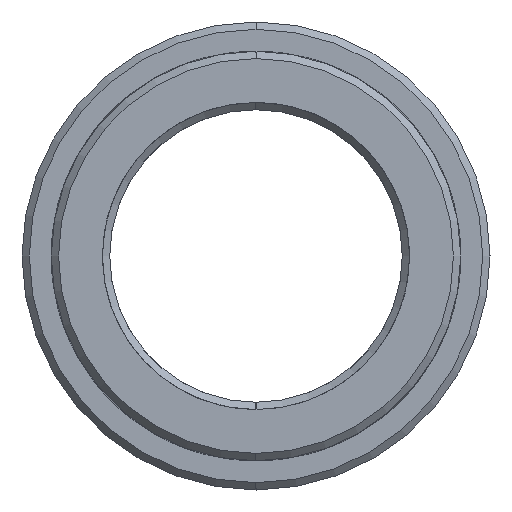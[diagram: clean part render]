
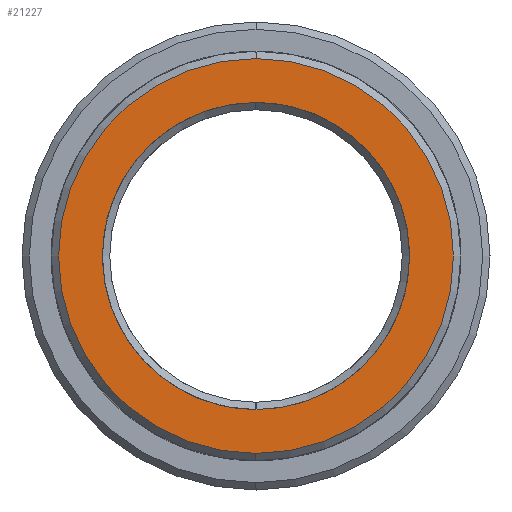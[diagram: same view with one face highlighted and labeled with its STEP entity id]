
A CAD part, left-side view. The second image highlights one B-rep face of the part: STEP entity #21227.
In plain terms, the highlighted planar face has unit normal (1, 0, 0).
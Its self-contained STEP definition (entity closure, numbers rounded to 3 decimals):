
#21144=CARTESIAN_POINT('Axis2P3D Location',(-15.,0.,0.)) ;
#21149=CARTESIAN_POINT('Axis2P3D Location',(-15.,0.,0.)) ;
#21153=CARTESIAN_POINT('Vertex',(-15.,0.,-13.5)) ;
#21155=CARTESIAN_POINT('Vertex',(-15.,0.,13.5)) ;
#21158=CARTESIAN_POINT('Axis2P3D Location',(-15.,0.,0.)) ;
#21168=CARTESIAN_POINT('Control Point',(-15.,0.,10.5)) ;
#21169=CARTESIAN_POINT('Control Point',(-15.,0.952,10.5)) ;
#21170=CARTESIAN_POINT('Control Point',(-15.,1.905,10.392)) ;
#21171=CARTESIAN_POINT('Control Point',(-15.,2.841,10.176)) ;
#21172=CARTESIAN_POINT('Control Point',(-15.,4.648,9.535)) ;
#21173=CARTESIAN_POINT('Control Point',(-15.,6.266,8.507)) ;
#21174=CARTESIAN_POINT('Control Point',(-15.,7.013,7.902)) ;
#21175=CARTESIAN_POINT('Control Point',(-15.,8.356,6.535)) ;
#21176=CARTESIAN_POINT('Control Point',(-15.,9.36,4.901)) ;
#21177=CARTESIAN_POINT('Control Point',(-15.,9.766,4.031)) ;
#21178=CARTESIAN_POINT('Control Point',(-15.,10.375,2.213)) ;
#21179=CARTESIAN_POINT('Control Point',(-15.,10.561,0.305)) ;
#21180=CARTESIAN_POINT('Control Point',(-15.,10.545,-0.656)) ;
#21181=CARTESIAN_POINT('Control Point',(-15.,10.295,-2.557)) ;
#21182=CARTESIAN_POINT('Control Point',(-15.,9.626,-4.354)) ;
#21183=CARTESIAN_POINT('Control Point',(-15.,9.191,-5.21)) ;
#21184=CARTESIAN_POINT('Control Point',(-15.,8.134,-6.809)) ;
#21185=CARTESIAN_POINT('Control Point',(-15.,6.746,-8.131)) ;
#21186=CARTESIAN_POINT('Control Point',(-15.,5.979,-8.711)) ;
#21187=CARTESIAN_POINT('Control Point',(-15.,4.389,-9.649)) ;
#21188=CARTESIAN_POINT('Control Point',(-15.,2.635,-10.222)) ;
#21189=CARTESIAN_POINT('Control Point',(-15.,1.765,-10.407)) ;
#21190=CARTESIAN_POINT('Control Point',(-15.,0.883,-10.5)) ;
#21191=CARTESIAN_POINT('Control Point',(-15.,0.,-10.5)) ;
#21192=CARTESIAN_POINT('Vertex',(-15.,0.,10.5)) ;
#21194=CARTESIAN_POINT('Vertex',(-15.,0.,-10.5)) ;
#21198=CARTESIAN_POINT('Control Point',(-15.,0.,-10.5)) ;
#21199=CARTESIAN_POINT('Control Point',(-15.,-0.952,-10.5)) ;
#21200=CARTESIAN_POINT('Control Point',(-15.,-1.905,-10.392)) ;
#21201=CARTESIAN_POINT('Control Point',(-15.,-2.841,-10.176)) ;
#21202=CARTESIAN_POINT('Control Point',(-15.,-4.648,-9.535)) ;
#21203=CARTESIAN_POINT('Control Point',(-15.,-6.266,-8.507)) ;
#21204=CARTESIAN_POINT('Control Point',(-15.,-7.013,-7.902)) ;
#21205=CARTESIAN_POINT('Control Point',(-15.,-8.356,-6.535)) ;
#21206=CARTESIAN_POINT('Control Point',(-15.,-9.36,-4.901)) ;
#21207=CARTESIAN_POINT('Control Point',(-15.,-9.766,-4.031)) ;
#21208=CARTESIAN_POINT('Control Point',(-15.,-10.375,-2.213)) ;
#21209=CARTESIAN_POINT('Control Point',(-15.,-10.561,-0.305)) ;
#21210=CARTESIAN_POINT('Control Point',(-15.,-10.545,0.656)) ;
#21211=CARTESIAN_POINT('Control Point',(-15.,-10.295,2.557)) ;
#21212=CARTESIAN_POINT('Control Point',(-15.,-9.626,4.354)) ;
#21213=CARTESIAN_POINT('Control Point',(-15.,-9.191,5.21)) ;
#21214=CARTESIAN_POINT('Control Point',(-15.,-8.134,6.809)) ;
#21215=CARTESIAN_POINT('Control Point',(-15.,-6.746,8.131)) ;
#21216=CARTESIAN_POINT('Control Point',(-15.,-5.979,8.711)) ;
#21217=CARTESIAN_POINT('Control Point',(-15.,-4.389,9.649)) ;
#21218=CARTESIAN_POINT('Control Point',(-15.,-2.635,10.222)) ;
#21219=CARTESIAN_POINT('Control Point',(-15.,-1.765,10.407)) ;
#21220=CARTESIAN_POINT('Control Point',(-15.,-0.883,10.5)) ;
#21221=CARTESIAN_POINT('Control Point',(-15.,0.,10.5)) ;
#21145=DIRECTION('Axis2P3D Direction',(1.,0.,0.)) ;
#21146=DIRECTION('Axis2P3D XDirection',(0.,1.,0.)) ;
#21150=DIRECTION('Axis2P3D Direction',(1.,0.,0.)) ;
#21159=DIRECTION('Axis2P3D Direction',(1.,0.,0.)) ;
#21147=AXIS2_PLACEMENT_3D('Plane Axis2P3D',#21144,#21145,#21146) ;
#21151=AXIS2_PLACEMENT_3D('Circle Axis2P3D',#21149,#21150,$) ;
#21160=AXIS2_PLACEMENT_3D('Circle Axis2P3D',#21158,#21159,$) ;
#21164=ORIENTED_EDGE('',*,*,#21157,.T.) ;
#21165=ORIENTED_EDGE('',*,*,#21162,.T.) ;
#21224=ORIENTED_EDGE('',*,*,#21196,.T.) ;
#21225=ORIENTED_EDGE('',*,*,#21222,.T.) ;
#21226=FACE_BOUND('',#21223,.T.) ;
#21227=ADVANCED_FACE('MANIFOLD_SOLID_BREP #11591',(#21166,#21226),#21148,.T.) ;
#21167=B_SPLINE_CURVE_WITH_KNOTS('',5,(#21168,#21169,#21170,#21171,#21172,#21173,#21174,#21175,#21176,#21177,#21178,#21179,#21180,#21181,#21182,#21183,#21184,#21185,#21186,#21187,#21188,#21189,#21190,#21191),.UNSPECIFIED.,.F.,.U.,(6,3,3,3,3,3,3,6),(0.,6.735,13.47,20.205,26.94,33.675,40.41,46.65),.UNSPECIFIED.) ;
#21197=B_SPLINE_CURVE_WITH_KNOTS('',5,(#21198,#21199,#21200,#21201,#21202,#21203,#21204,#21205,#21206,#21207,#21208,#21209,#21210,#21211,#21212,#21213,#21214,#21215,#21216,#21217,#21218,#21219,#21220,#21221),.UNSPECIFIED.,.F.,.U.,(6,3,3,3,3,3,3,6),(0.,6.735,13.47,20.205,26.94,33.675,40.41,46.65),.UNSPECIFIED.) ;
#21152=CIRCLE('generated circle',#21151,13.5) ;
#21161=CIRCLE('generated circle',#21160,13.5) ;
#21157=EDGE_CURVE('',#21154,#21156,#21152,.T.) ;
#21162=EDGE_CURVE('',#21156,#21154,#21161,.T.) ;
#21196=EDGE_CURVE('',#21193,#21195,#21167,.T.) ;
#21222=EDGE_CURVE('',#21195,#21193,#21197,.T.) ;
#21163=EDGE_LOOP('',(#21164,#21165)) ;
#21223=EDGE_LOOP('',(#21224,#21225)) ;
#21166=FACE_OUTER_BOUND('',#21163,.T.) ;
#21148=PLANE('Plane',#21147) ;
#21154=VERTEX_POINT('',#21153) ;
#21156=VERTEX_POINT('',#21155) ;
#21193=VERTEX_POINT('',#21192) ;
#21195=VERTEX_POINT('',#21194) ;
